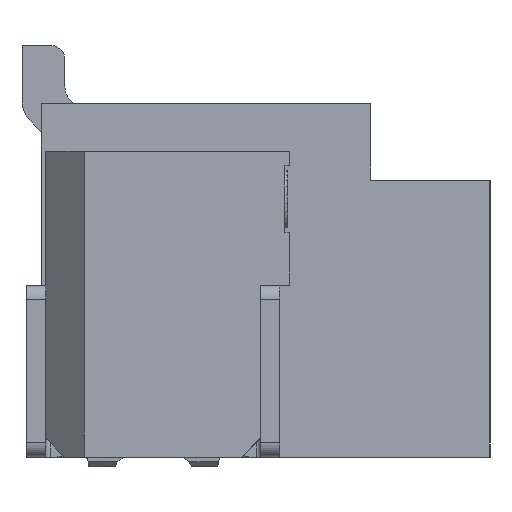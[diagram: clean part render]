
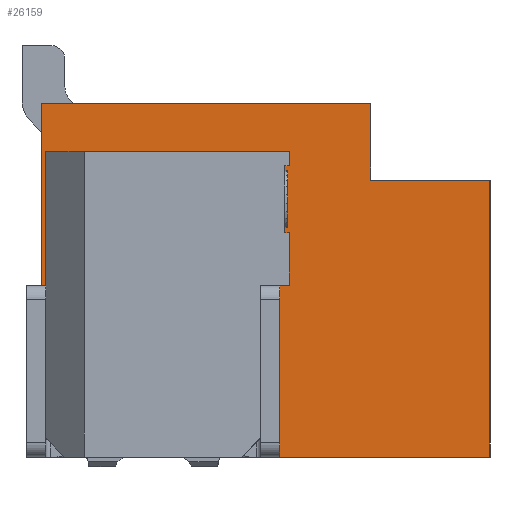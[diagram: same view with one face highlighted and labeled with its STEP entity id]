
A CAD part, left-side view. The second image highlights one B-rep face of the part: STEP entity #26159.
In plain terms, the highlighted planar face has unit normal (-1, 0, 0).
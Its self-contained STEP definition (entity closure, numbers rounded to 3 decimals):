
#165 = ORIENTED_EDGE ( 'NONE', *, *, #29099, .T. ) ;
#293 = EDGE_CURVE ( 'NONE', #14286, #11630, #10216, .T. ) ;
#459 = ORIENTED_EDGE ( 'NONE', *, *, #17431, .F. ) ;
#604 = VECTOR ( 'NONE', #23951, 1000. ) ;
#802 = VECTOR ( 'NONE', #27993, 1000. ) ;
#1109 = ORIENTED_EDGE ( 'NONE', *, *, #25454, .T. ) ;
#1536 = LINE ( 'NONE', #4266, #802 ) ;
#2092 = LINE ( 'NONE', #33667, #17226 ) ;
#2296 = CARTESIAN_POINT ( 'NONE',  ( -4.725, -1.45, 2.9 ) ) ;
#3662 = CARTESIAN_POINT ( 'NONE',  ( -4.725, -1.45, 2.9 ) ) ;
#3753 = LINE ( 'NONE', #29706, #27261 ) ;
#3874 = VERTEX_POINT ( 'NONE', #23636 ) ;
#3949 = DIRECTION ( 'NONE',  ( 0., 1., 0. ) ) ;
#4266 = CARTESIAN_POINT ( 'NONE',  ( -4.725, -0.3, 0. ) ) ;
#4339 = VERTEX_POINT ( 'NONE', #14845 ) ;
#4550 = AXIS2_PLACEMENT_3D ( 'NONE', #33513, #5342, #18318 ) ;
#4792 = EDGE_CURVE ( 'NONE', #11302, #3874, #11349, .T. ) ;
#4906 = VECTOR ( 'NONE', #18009, 1000. ) ;
#5342 = DIRECTION ( 'NONE',  ( 1., 0., 0. ) ) ;
#5343 = ORIENTED_EDGE ( 'NONE', *, *, #293, .T. ) ;
#5441 = LINE ( 'NONE', #33772, #32104 ) ;
#5618 = DIRECTION ( 'NONE',  ( 0., 1., 0. ) ) ;
#5854 = LINE ( 'NONE', #24126, #604 ) ;
#5880 = ORIENTED_EDGE ( 'NONE', *, *, #32668, .T. ) ;
#7508 = VERTEX_POINT ( 'NONE', #13689 ) ;
#7658 = DIRECTION ( 'NONE',  ( 0., 0., -1. ) ) ;
#7750 = VERTEX_POINT ( 'NONE', #29588 ) ;
#7962 = CARTESIAN_POINT ( 'NONE',  ( -4.725, -0.6, 3.2 ) ) ;
#8041 = VECTOR ( 'NONE', #24902, 1000. ) ;
#8151 = CARTESIAN_POINT ( 'NONE',  ( -4.725, 2., 3.7 ) ) ;
#8161 = DIRECTION ( 'NONE',  ( 0., 0., 1. ) ) ;
#8518 = CARTESIAN_POINT ( 'NONE',  ( -4.725, -0.6, 3.05 ) ) ;
#8779 = ORIENTED_EDGE ( 'NONE', *, *, #24409, .T. ) ;
#9751 = EDGE_CURVE ( 'NONE', #13420, #9804, #33038, .T. ) ;
#9804 = VERTEX_POINT ( 'NONE', #24698 ) ;
#10216 = LINE ( 'NONE', #15506, #19619 ) ;
#10386 = EDGE_CURVE ( 'NONE', #15555, #7750, #2092, .T. ) ;
#10901 = LINE ( 'NONE', #21138, #28866 ) ;
#10910 = CARTESIAN_POINT ( 'NONE',  ( -4.725, 2., 0. ) ) ;
#11069 = VECTOR ( 'NONE', #7658, 1000. ) ;
#11137 = EDGE_CURVE ( 'NONE', #9804, #7508, #1536, .T. ) ;
#11302 = VERTEX_POINT ( 'NONE', #10910 ) ;
#11349 = LINE ( 'NONE', #14081, #24105 ) ;
#11354 = LINE ( 'NONE', #3662, #33188 ) ;
#11523 = EDGE_CURVE ( 'NONE', #7750, #4339, #12087, .T. ) ;
#11630 = VERTEX_POINT ( 'NONE', #12915 ) ;
#11671 = ORIENTED_EDGE ( 'NONE', *, *, #14518, .T. ) ;
#11872 = VERTEX_POINT ( 'NONE', #30303 ) ;
#12087 = LINE ( 'NONE', #7962, #29151 ) ;
#12915 = CARTESIAN_POINT ( 'NONE',  ( -4.725, -1.45, 3.7 ) ) ;
#13241 = VERTEX_POINT ( 'NONE', #17484 ) ;
#13264 = DIRECTION ( 'NONE',  ( 0., 0., -1. ) ) ;
#13420 = VERTEX_POINT ( 'NONE', #23933 ) ;
#13689 = CARTESIAN_POINT ( 'NONE',  ( -4.725, -2.7, 0. ) ) ;
#14081 = CARTESIAN_POINT ( 'NONE',  ( -4.725, 2., 0. ) ) ;
#14229 = ORIENTED_EDGE ( 'NONE', *, *, #21714, .T. ) ;
#14286 = VERTEX_POINT ( 'NONE', #2296 ) ;
#14510 = DIRECTION ( 'NONE',  ( 0., 0., -1. ) ) ;
#14518 = EDGE_CURVE ( 'NONE', #4339, #18696, #21841, .T. ) ;
#14845 = CARTESIAN_POINT ( 'NONE',  ( -4.725, -0.6, 3.05 ) ) ;
#15098 = EDGE_CURVE ( 'NONE', #11630, #17019, #15631, .T. ) ;
#15256 = PLANE ( 'NONE',  #4550 ) ;
#15449 = ORIENTED_EDGE ( 'NONE', *, *, #21797, .T. ) ;
#15506 = CARTESIAN_POINT ( 'NONE',  ( -4.725, -1.45, 2.9 ) ) ;
#15555 = VERTEX_POINT ( 'NONE', #25996 ) ;
#15631 = LINE ( 'NONE', #26223, #30907 ) ;
#15804 = DIRECTION ( 'NONE',  ( 0., 1., 0. ) ) ;
#16735 = ORIENTED_EDGE ( 'NONE', *, *, #4792, .T. ) ;
#17019 = VERTEX_POINT ( 'NONE', #17951 ) ;
#17226 = VECTOR ( 'NONE', #17980, 1000. ) ;
#17431 = EDGE_CURVE ( 'NONE', #14286, #20843, #11354, .T. ) ;
#17484 = CARTESIAN_POINT ( 'NONE',  ( -4.725, -0.6, 2.35 ) ) ;
#17951 = CARTESIAN_POINT ( 'NONE',  ( -4.725, 2., 3.7 ) ) ;
#17980 = DIRECTION ( 'NONE',  ( 0., -1., 0. ) ) ;
#18009 = DIRECTION ( 'NONE',  ( 0., 0., -1. ) ) ;
#18318 = DIRECTION ( 'NONE',  ( 0., 1., 0. ) ) ;
#18696 = VERTEX_POINT ( 'NONE', #30774 ) ;
#19619 = VECTOR ( 'NONE', #25915, 1000. ) ;
#20207 = ORIENTED_EDGE ( 'NONE', *, *, #10386, .T. ) ;
#20843 = VERTEX_POINT ( 'NONE', #21294 ) ;
#21046 = ORIENTED_EDGE ( 'NONE', *, *, #15098, .T. ) ;
#21138 = CARTESIAN_POINT ( 'NONE',  ( -4.725, -0.6, 2.35 ) ) ;
#21294 = CARTESIAN_POINT ( 'NONE',  ( -4.725, -2.7, 2.9 ) ) ;
#21714 = EDGE_CURVE ( 'NONE', #18696, #27182, #24419, .T. ) ;
#21797 = EDGE_CURVE ( 'NONE', #13241, #11872, #3753, .T. ) ;
#21841 = LINE ( 'NONE', #8518, #8041 ) ;
#22554 = VECTOR ( 'NONE', #3949, 1000. ) ;
#22580 = ORIENTED_EDGE ( 'NONE', *, *, #9751, .T. ) ;
#23636 = CARTESIAN_POINT ( 'NONE',  ( -4.725, 1.95, 0. ) ) ;
#23933 = CARTESIAN_POINT ( 'NONE',  ( -4.725, -0.3, 1.8 ) ) ;
#23951 = DIRECTION ( 'NONE',  ( 0., 0., 1. ) ) ;
#24008 = EDGE_LOOP ( 'NONE', ( #20207, #27727, #11671, #14229, #28959, #15449, #8779, #22580, #33734, #5880, #459, #5343, #21046, #1109, #16735, #165 ) ) ;
#24105 = VECTOR ( 'NONE', #32173, 1000. ) ;
#24107 = CARTESIAN_POINT ( 'NONE',  ( -4.725, -0.6, 1.8 ) ) ;
#24126 = CARTESIAN_POINT ( 'NONE',  ( -4.725, -2.7, 0. ) ) ;
#24409 = EDGE_CURVE ( 'NONE', #11872, #13420, #32451, .T. ) ;
#24419 = LINE ( 'NONE', #29375, #4906 ) ;
#24494 = CARTESIAN_POINT ( 'NONE',  ( -4.725, -0.55, 2.35 ) ) ;
#24678 = DIRECTION ( 'NONE',  ( 0., -1., 0. ) ) ;
#24698 = CARTESIAN_POINT ( 'NONE',  ( -4.725, -0.3, 0. ) ) ;
#24857 = CARTESIAN_POINT ( 'NONE',  ( -4.725, -0.3, 1.8 ) ) ;
#24902 = DIRECTION ( 'NONE',  ( 0., 1., 0. ) ) ;
#25099 = VECTOR ( 'NONE', #30151, 1000. ) ;
#25454 = EDGE_CURVE ( 'NONE', #17019, #11302, #31538, .T. ) ;
#25915 = DIRECTION ( 'NONE',  ( 0., 0., 1. ) ) ;
#25996 = CARTESIAN_POINT ( 'NONE',  ( -4.725, 1.95, 3.2 ) ) ;
#26159 = ADVANCED_FACE ( 'NONE', ( #33353 ), #15256, .F. ) ;
#26223 = CARTESIAN_POINT ( 'NONE',  ( -4.725, -1.45, 3.7 ) ) ;
#27182 = VERTEX_POINT ( 'NONE', #24494 ) ;
#27261 = VECTOR ( 'NONE', #14510, 1000. ) ;
#27727 = ORIENTED_EDGE ( 'NONE', *, *, #11523, .T. ) ;
#27993 = DIRECTION ( 'NONE',  ( 0., -1., 0. ) ) ;
#28866 = VECTOR ( 'NONE', #5618, 1000. ) ;
#28959 = ORIENTED_EDGE ( 'NONE', *, *, #30276, .F. ) ;
#29099 = EDGE_CURVE ( 'NONE', #3874, #15555, #5441, .T. ) ;
#29151 = VECTOR ( 'NONE', #13264, 1000. ) ;
#29375 = CARTESIAN_POINT ( 'NONE',  ( -4.725, -0.55, 3.05 ) ) ;
#29588 = CARTESIAN_POINT ( 'NONE',  ( -4.725, -0.6, 3.2 ) ) ;
#29706 = CARTESIAN_POINT ( 'NONE',  ( -4.725, -0.6, 2.35 ) ) ;
#30151 = DIRECTION ( 'NONE',  ( 0., 0., -1. ) ) ;
#30276 = EDGE_CURVE ( 'NONE', #13241, #27182, #10901, .T. ) ;
#30303 = CARTESIAN_POINT ( 'NONE',  ( -4.725, -0.6, 1.8 ) ) ;
#30774 = CARTESIAN_POINT ( 'NONE',  ( -4.725, -0.55, 3.05 ) ) ;
#30907 = VECTOR ( 'NONE', #15804, 1000. ) ;
#31538 = LINE ( 'NONE', #8151, #11069 ) ;
#32104 = VECTOR ( 'NONE', #8161, 1000. ) ;
#32173 = DIRECTION ( 'NONE',  ( 0., -1., 0. ) ) ;
#32451 = LINE ( 'NONE', #24107, #22554 ) ;
#32668 = EDGE_CURVE ( 'NONE', #7508, #20843, #5854, .T. ) ;
#33038 = LINE ( 'NONE', #24857, #25099 ) ;
#33188 = VECTOR ( 'NONE', #24678, 1000. ) ;
#33353 = FACE_OUTER_BOUND ( 'NONE', #24008, .T. ) ;
#33513 = CARTESIAN_POINT ( 'NONE',  ( -4.725, -0.35, 1.85 ) ) ;
#33667 = CARTESIAN_POINT ( 'NONE',  ( -4.725, 1.95, 3.2 ) ) ;
#33734 = ORIENTED_EDGE ( 'NONE', *, *, #11137, .T. ) ;
#33772 = CARTESIAN_POINT ( 'NONE',  ( -4.725, 1.95, 0. ) ) ;
